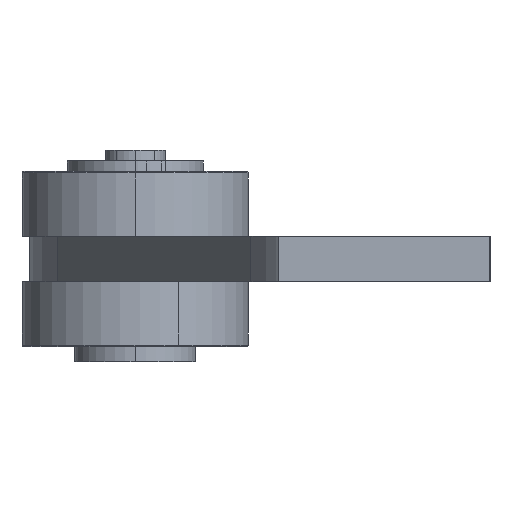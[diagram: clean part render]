
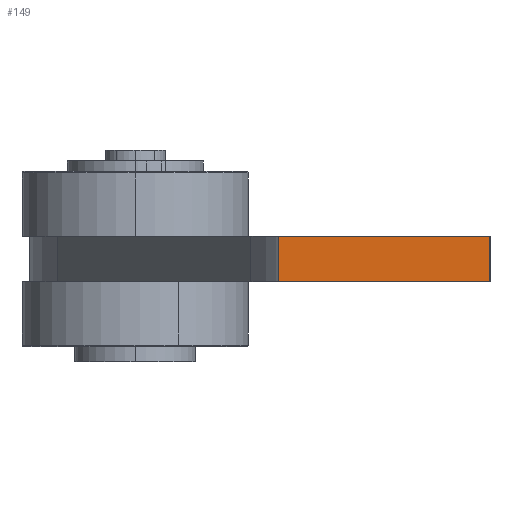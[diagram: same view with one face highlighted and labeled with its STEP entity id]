
A CAD part, left-side view. The second image highlights one B-rep face of the part: STEP entity #149.
In plain terms, the highlighted planar face has unit normal (-1, 0, 0).
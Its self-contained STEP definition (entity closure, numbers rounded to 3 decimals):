
#34 = VECTOR ( 'NONE', #251, 1000. ) ;
#149 = ADVANCED_FACE ( 'NONE', ( #249 ), #977, .T. ) ;
#166 = CARTESIAN_POINT ( 'NONE',  ( -1000., -9.5, 0. ) ) ;
#168 = EDGE_CURVE ( 'NONE', #1002, #413, #659, .T. ) ;
#200 = VERTEX_POINT ( 'NONE', #1180 ) ;
#217 = AXIS2_PLACEMENT_3D ( 'NONE', #988, #1059, #1064 ) ;
#249 = FACE_OUTER_BOUND ( 'NONE', #1209, .T. ) ;
#250 = VECTOR ( 'NONE', #1412, 1000. ) ;
#251 = DIRECTION ( 'NONE',  ( 0., 0., 1. ) ) ;
#343 = ORIENTED_EDGE ( 'NONE', *, *, #717, .F. ) ;
#413 = VERTEX_POINT ( 'NONE', #1156 ) ;
#457 = DIRECTION ( 'NONE',  ( 0., 0., 1. ) ) ;
#501 = LINE ( 'NONE', #1211, #34 ) ;
#561 = VECTOR ( 'NONE', #457, 1000. ) ;
#659 = LINE ( 'NONE', #1101, #934 ) ;
#660 = LINE ( 'NONE', #1407, #250 ) ;
#665 = ORIENTED_EDGE ( 'NONE', *, *, #1368, .T. ) ;
#717 = EDGE_CURVE ( 'NONE', #1081, #1002, #501, .T. ) ;
#934 = VECTOR ( 'NONE', #1104, 1000. ) ;
#977 = PLANE ( 'NONE',  #217 ) ;
#988 = CARTESIAN_POINT ( 'NONE',  ( -1000., -9.5, -3. ) ) ;
#1002 = VERTEX_POINT ( 'NONE', #166 ) ;
#1059 = DIRECTION ( 'NONE',  ( -1., 0., 0. ) ) ;
#1064 = DIRECTION ( 'NONE',  ( 0., 0., 1. ) ) ;
#1081 = VERTEX_POINT ( 'NONE', #1651 ) ;
#1101 = CARTESIAN_POINT ( 'NONE',  ( -1000., -9.5, 0. ) ) ;
#1104 = DIRECTION ( 'NONE',  ( 0., -1., 0. ) ) ;
#1156 = CARTESIAN_POINT ( 'NONE',  ( -1000., -23.5, 0. ) ) ;
#1180 = CARTESIAN_POINT ( 'NONE',  ( -1000., -23.5, -3. ) ) ;
#1209 = EDGE_LOOP ( 'NONE', ( #1365, #343, #1218, #665 ) ) ;
#1211 = CARTESIAN_POINT ( 'NONE',  ( -1000., -9.5, -3. ) ) ;
#1218 = ORIENTED_EDGE ( 'NONE', *, *, #1359, .T. ) ;
#1359 = EDGE_CURVE ( 'NONE', #1081, #200, #660, .T. ) ;
#1365 = ORIENTED_EDGE ( 'NONE', *, *, #168, .F. ) ;
#1368 = EDGE_CURVE ( 'NONE', #200, #413, #1597, .T. ) ;
#1407 = CARTESIAN_POINT ( 'NONE',  ( -1000., -9.5, -3. ) ) ;
#1412 = DIRECTION ( 'NONE',  ( 0., -1., 0. ) ) ;
#1553 = CARTESIAN_POINT ( 'NONE',  ( -1000., -23.5, -3. ) ) ;
#1597 = LINE ( 'NONE', #1553, #561 ) ;
#1651 = CARTESIAN_POINT ( 'NONE',  ( -1000., -9.5, -3. ) ) ;
